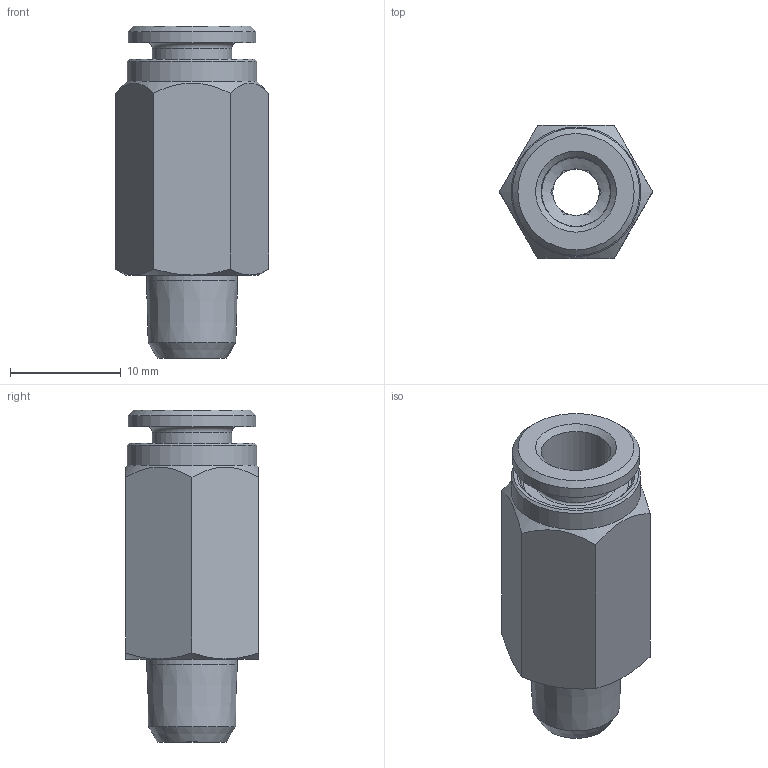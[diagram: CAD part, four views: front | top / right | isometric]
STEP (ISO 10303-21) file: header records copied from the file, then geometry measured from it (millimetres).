
FILE_DESCRIPTION(/* description */ (''),/* implementation_level */ '2;1');
FILE_NAME(/* name */ '9911_0701_0640_HSV-Gerade',/* time_stamp */ '2017-05-04T09:47:47+02:00',/* author */ (''),/* organization */ (''),/* preprocessor_version */ 'ST-DEVELOPER v16.5',/* originating_system */ 'HiCAD 2016 2102.1 Build 498',/* authorisation */ '');
FILE_SCHEMA (('AUTOMOTIVE_DESIGN { 1 0 10303 214 1 1 1 1 }'));
Length unit declared in the file: millimetre
Products named in the file (3): Root; RIVOLUZIONE_0; DR6-C_HSV_25.07.16
Assembly tree (2 placements, depth 2):
  Root
    RIVOLUZIONE_0
    DR6-C_HSV_25.07.16
Bounding box: 13.86 x 12 x 30 mm (x, y, z)
Volume: 1885.1 mm3; surface area: 2567.5 mm2
Topology: 2 solids, 2 shells, 63 faces, 144 edges, 89 vertices
Faces by surface type: plane 32, cone 17, cylinder 10, torus 4
Full cylindrical faces by diameter (mm): 4.2 x1, 6.2 x1, 6.3 x1, 7.2 x1, 8.219 x1, 9.9 x1, 10 x1, 10.3 x1, 11.5 x1, 11.7 x1
Entity records: 2846 total; most frequent: DIRECTION 328, CARTESIAN_POINT 267, PRESENTATION_STYLE_ASSIGNMENT 232, COLOUR_RGB 232, DRAUGHTING_PRE_DEFINED_CURVE_FONT 230, CURVE_STYLE 230, OVER_RIDING_STYLED_ITEM 230, ORIENTED_EDGE 230
